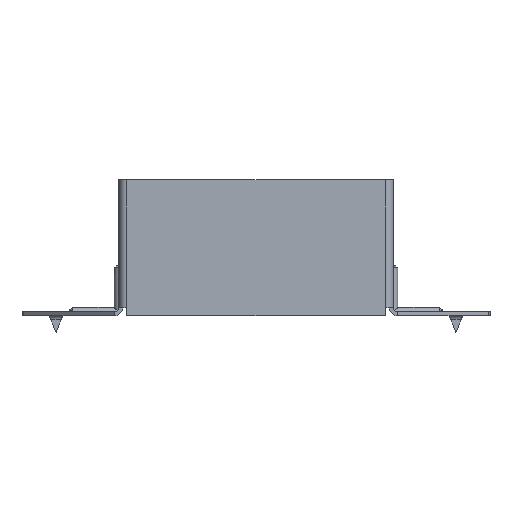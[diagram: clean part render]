
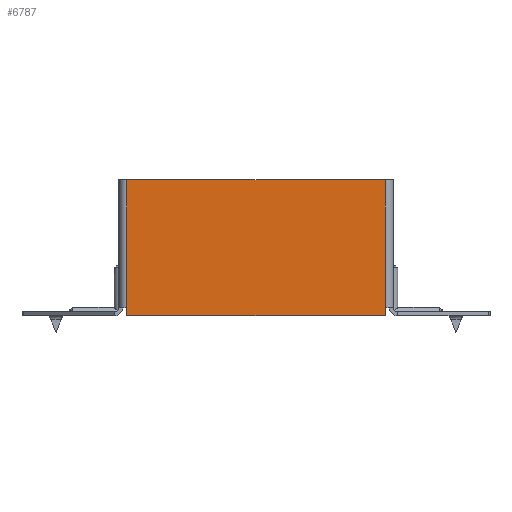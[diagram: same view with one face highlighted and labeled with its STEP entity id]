
A CAD part, front view. The second image highlights one B-rep face of the part: STEP entity #6787.
In plain terms, the highlighted planar face has unit normal (0, -1, 0).
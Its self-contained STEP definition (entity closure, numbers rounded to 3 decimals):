
#77 = DIRECTION ( 'NONE',  ( 0., 1., 0. ) ) ;
#134 = PLANE ( 'NONE',  #4224 ) ;
#539 = DIRECTION ( 'NONE',  ( -1., 0., 0. ) ) ;
#1247 = ORIENTED_EDGE ( 'NONE', *, *, #14281, .F. ) ;
#1470 = EDGE_CURVE ( 'NONE', #6680, #5751, #9269, .T. ) ;
#1757 = ORIENTED_EDGE ( 'NONE', *, *, #3837, .T. ) ;
#1870 = CARTESIAN_POINT ( 'NONE',  ( -49., 0., -70. ) ) ;
#2155 = LINE ( 'NONE', #11603, #10774 ) ;
#2817 = FACE_OUTER_BOUND ( 'NONE', #12691, .T. ) ;
#3194 = VERTEX_POINT ( 'NONE', #9774 ) ;
#3292 = ORIENTED_EDGE ( 'NONE', *, *, #13798, .T. ) ;
#3837 = EDGE_CURVE ( 'NONE', #5203, #14627, #10994, .T. ) ;
#4224 = AXIS2_PLACEMENT_3D ( 'NONE', #13558, #77, #8643 ) ;
#4369 = CARTESIAN_POINT ( 'NONE',  ( 47.5, 0., -70. ) ) ;
#4465 = LINE ( 'NONE', #8197, #14842 ) ;
#4502 = EDGE_CURVE ( 'NONE', #7057, #3194, #2155, .T. ) ;
#5203 = VERTEX_POINT ( 'NONE', #11125 ) ;
#5258 = DIRECTION ( 'NONE',  ( -1., 0., 0. ) ) ;
#5751 = VERTEX_POINT ( 'NONE', #13424 ) ;
#5768 = DIRECTION ( 'NONE',  ( 0., 0., 1. ) ) ;
#6466 = ORIENTED_EDGE ( 'NONE', *, *, #1470, .T. ) ;
#6680 = VERTEX_POINT ( 'NONE', #13108 ) ;
#6701 = CARTESIAN_POINT ( 'NONE',  ( -47.5, 0., 0. ) ) ;
#6747 = DIRECTION ( 'NONE',  ( 0., 0., 1. ) ) ;
#6772 = VECTOR ( 'NONE', #539, 1000. ) ;
#6787 = ADVANCED_FACE ( 'NONE', ( #2817 ), #134, .F. ) ;
#7057 = VERTEX_POINT ( 'NONE', #7814 ) ;
#7560 = LINE ( 'NONE', #6701, #15233 ) ;
#7814 = CARTESIAN_POINT ( 'NONE',  ( -47.5, 0., -67. ) ) ;
#7824 = DIRECTION ( 'NONE',  ( 0., 0., -1. ) ) ;
#8197 = CARTESIAN_POINT ( 'NONE',  ( 47.5, 0., -70. ) ) ;
#8357 = DIRECTION ( 'NONE',  ( 0., 0., -1. ) ) ;
#8502 = ORIENTED_EDGE ( 'NONE', *, *, #13709, .T. ) ;
#8643 = DIRECTION ( 'NONE',  ( 0., 0., 1. ) ) ;
#9098 = CARTESIAN_POINT ( 'NONE',  ( -47.5, 0., -20. ) ) ;
#9269 = LINE ( 'NONE', #4369, #10965 ) ;
#9774 = CARTESIAN_POINT ( 'NONE',  ( -47.5, 0., -70. ) ) ;
#10774 = VECTOR ( 'NONE', #8357, 1000. ) ;
#10965 = VECTOR ( 'NONE', #5768, 1000. ) ;
#10994 = LINE ( 'NONE', #11408, #12154 ) ;
#11125 = CARTESIAN_POINT ( 'NONE',  ( 47.5, 0., -20. ) ) ;
#11408 = CARTESIAN_POINT ( 'NONE',  ( 0., 0., -20. ) ) ;
#11603 = CARTESIAN_POINT ( 'NONE',  ( -47.5, 0., 0. ) ) ;
#12154 = VECTOR ( 'NONE', #5258, 1000. ) ;
#12618 = ORIENTED_EDGE ( 'NONE', *, *, #4502, .T. ) ;
#12691 = EDGE_LOOP ( 'NONE', ( #1757, #8502, #12618, #1247, #6466, #3292 ) ) ;
#13108 = CARTESIAN_POINT ( 'NONE',  ( 47.5, 0., -70. ) ) ;
#13424 = CARTESIAN_POINT ( 'NONE',  ( 47.5, 0., -67. ) ) ;
#13558 = CARTESIAN_POINT ( 'NONE',  ( 0., 0., 0. ) ) ;
#13709 = EDGE_CURVE ( 'NONE', #14627, #7057, #7560, .T. ) ;
#13798 = EDGE_CURVE ( 'NONE', #5751, #5203, #4465, .T. ) ;
#14281 = EDGE_CURVE ( 'NONE', #6680, #3194, #15786, .T. ) ;
#14627 = VERTEX_POINT ( 'NONE', #9098 ) ;
#14842 = VECTOR ( 'NONE', #6747, 1000. ) ;
#15233 = VECTOR ( 'NONE', #7824, 1000. ) ;
#15786 = LINE ( 'NONE', #1870, #6772 ) ;
